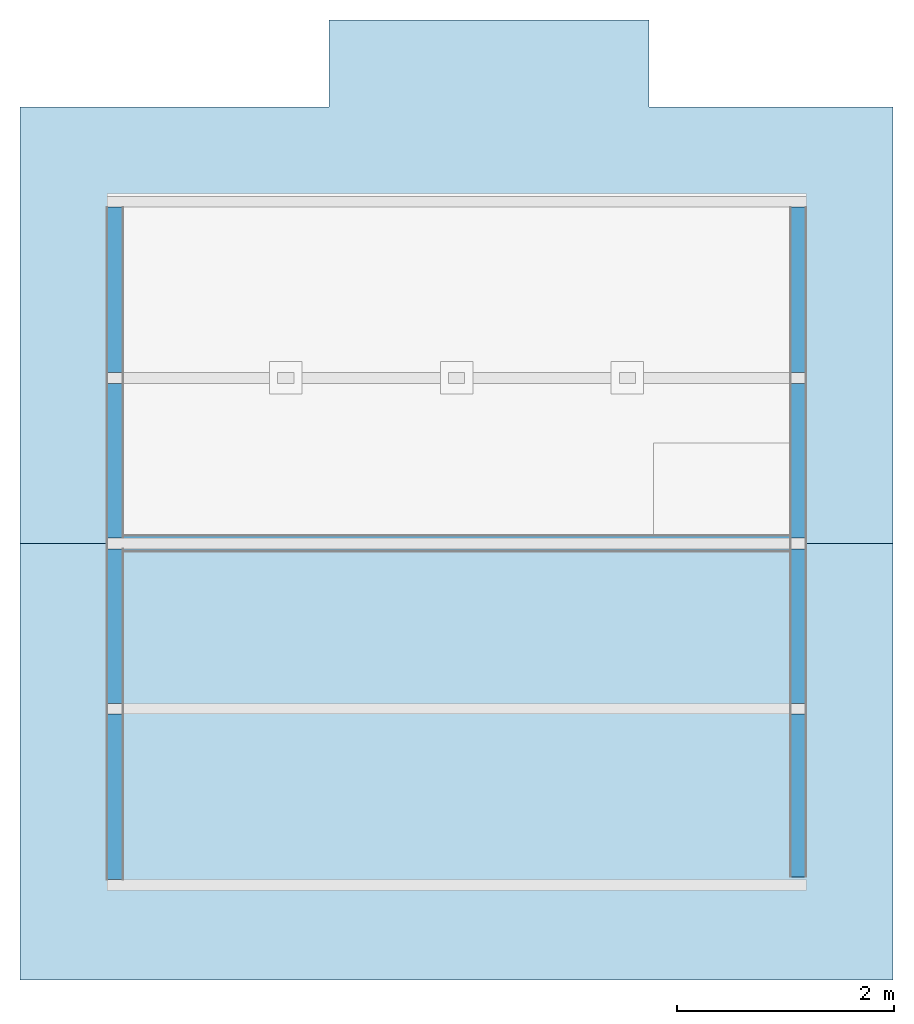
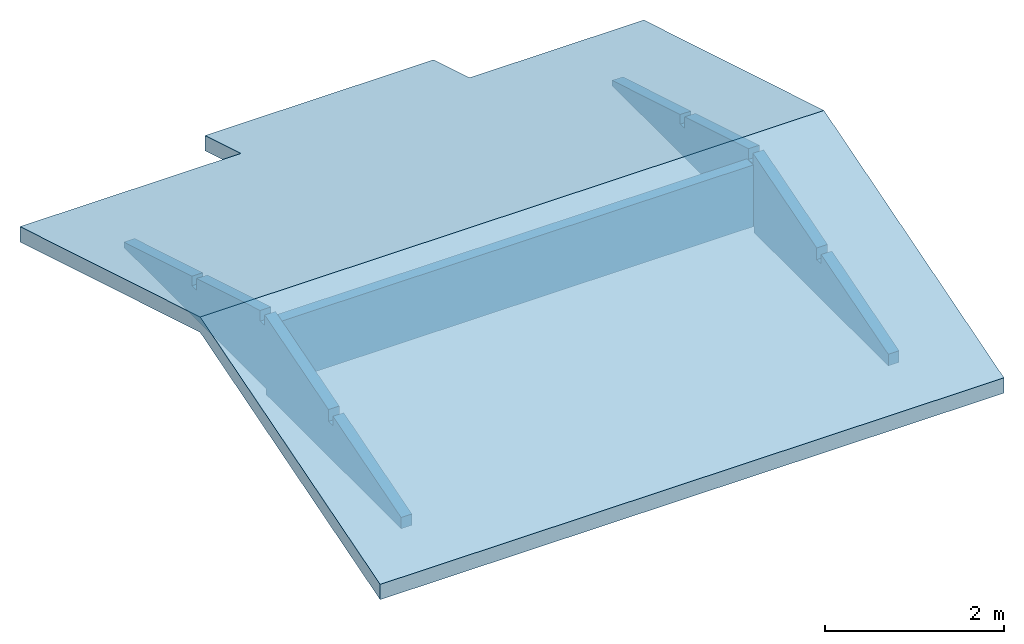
# One storey, part 2 of 4: 3 building element parts, 1 roof, 3 elements without a shape of their own.
"""IFC2X3 building model written with IfcOpenShell, lengths in millimetres."""

from ifc_helpers import new_model, entity, si_unit, converted_unit, derived_unit, money_unit, direction, frame, origin_with_axes, place, context, subcontext, project, spatial, polyline, outline, extrude, boolean, faceted_brep, material, type_object, element, aggregate, save


model = new_model("IFC2X3")

# Units and contexts
model_context = context("Model", 3, precision=0.01, world=origin_with_axes(), true_north=direction((0.0, 1.0)))
body_context = subcontext(model_context, "Body", "Model", "MODEL_VIEW")
ifc_project = project(units=[si_unit("LENGTHUNIT", "METRE", prefix="MILLI"), si_unit("AREAUNIT", "SQUARE_METRE"), si_unit("VOLUMEUNIT", "CUBIC_METRE"), converted_unit("PLANEANGLEUNIT", "DEGREE", entity("IfcPlaneAngleMeasure", 0.0174532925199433), si_unit("PLANEANGLEUNIT", "RADIAN"), dimensions=[0, 0, 0, 0, 0, 0, 0]), money_unit("USD"), converted_unit("TIMEUNIT", "Year", entity("IfcTimeMeasure", 31557600.0), si_unit("TIMEUNIT", "SECOND"), dimensions=[0, 0, 1, 0, 0, 0, 0]), si_unit("MASSUNIT", "GRAM", prefix="KILO"), si_unit("THERMODYNAMICTEMPERATUREUNIT", "DEGREE_CELSIUS"), si_unit("LUMINOUSINTENSITYUNIT", "LUMEN"), si_unit("ENERGYUNIT", "JOULE", prefix="MEGA"), derived_unit("THERMALCONDUCTANCEUNIT", [(si_unit("POWERUNIT", "WATT"), 1), (si_unit("LENGTHUNIT", "METRE"), -1), (si_unit("THERMODYNAMICTEMPERATUREUNIT", "KELVIN"), -1)]), derived_unit("SPECIFICHEATCAPACITYUNIT", [(si_unit("ENERGYUNIT", "JOULE"), 1), (si_unit("MASSUNIT", "GRAM", prefix="KILO"), -1), (si_unit("THERMODYNAMICTEMPERATUREUNIT", "KELVIN"), -1)]), derived_unit("MASSDENSITYUNIT", [(si_unit("MASSUNIT", "GRAM", prefix="KILO"), 1), (si_unit("VOLUMEUNIT", "CUBIC_METRE"), -1)])], contexts=[model_context])

# Site, building, storey
site_placement = place(None, origin_with_axes())
site = spatial("IfcSite", under=ifc_project, at=site_placement, Name="Local", CompositionType="ELEMENT")
building_placement = place(site_placement, origin_with_axes())
building = spatial("IfcBuilding", under=site, at=building_placement, Name="Construção", CompositionType="ELEMENT")
storey_placement = place(building_placement, frame((0.0, 0.0, 2500.0), z_axis=(0.0, 0.0, 1.0), x_axis=(1.0, 0.0, 0.0)))
storey = spatial("IfcBuildingStorey", under=building, at=storey_placement, Name="Cobertura", CompositionType="ELEMENT", Elevation=2500.0)

# Roof
ifc_material_1 = material(Name="Telha - Cobertura")
roof_placement = place(storey_placement, frame((3224.999999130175, 3625.000000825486, 115.4517409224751), z_axis=(0.0, 0.0, 1.0), x_axis=(1.0, 0.0, 0.0)))
element("IfcRoof", 1, at=roof_placement, inside=storey, material=ifc_material_1, Name="Cobert-01", ShapeType="NOTDEFINED", context=body_context, shape_type="Brep", body=[
    faceted_brep([(-4025.000000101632, 3625.000000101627, -31.19386984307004), (-4025.000001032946, -400.0000001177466, 1176.30613026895), (4024.999999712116, -400.0000001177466, 1176.30613026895), (4025.000000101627, 3625.000000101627, -31.19386984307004), (1775.000000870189, 3625.000000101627, -31.19386984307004), (1775.000000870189, 4425.000000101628, -271.1938698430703), (-1174.999999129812, 4425.000000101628, -271.1938698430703), (-1174.999999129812, 3625.000000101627, -31.19386984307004), (-4024.999999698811, 3625.000000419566, -240.0000003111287), (-4025.000001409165, -399.9999997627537, 967.5000000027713), (4025.000000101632, -4425.000000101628, -31.19386972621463), (-4025.000000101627, -4425.000000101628, -31.19386972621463), (4024.999999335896, -399.9999997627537, 967.5000000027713), (4025.000000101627, 3625.000000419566, -240.0000003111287), (1775.00000103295, 3625.000000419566, -240.0000003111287), (1775.00000103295, 4425.000000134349, -480.0000002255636), (-1174.999999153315, 4425.000000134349, -480.0000002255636), (-1174.999999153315, 3625.000000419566, -240.0000003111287), (-4025.000000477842, -4424.999999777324, -240.0000000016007), (4025.000000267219, -4424.999999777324, -240.0000000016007)], [[[0, 1, 2, 3, 4, 5, 6, 7]], [[8, 9, 1, 0]], [[10, 2, 1, 11]], [[3, 2, 12, 13]], [[13, 14, 4, 3]], [[14, 15, 5, 4]], [[15, 16, 6, 5]], [[16, 17, 7, 6]], [[17, 8, 0, 7]], [[13, 12, 9, 8, 17, 16, 15, 14]], [[11, 1, 9, 18]], [[19, 12, 2, 10]], [[18, 19, 10, 11]], [[18, 9, 12, 19]]]),
])

# Wall, building element part
wall_type = type_object("IfcWallType", Name="Alvenaria 140, Rebocada 2 Faces 150", PredefinedType="NOTDEFINED")
wall_1_placement = place(storey_placement, frame((6449.999999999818, 150.0000000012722, 0.0), z_axis=(0.0, 0.0, 1.0), x_axis=(0.0, 1.0, 0.0)))
wall_1 = element("IfcWall", 2, at=wall_1_placement, inside=storey, type_object=wall_type, Name="Parede-10")
ifc_material_2 = material(Name="Bloco de Concreto - Estrutural DEF")
building_element_part_1_placement = place(wall_1_placement, origin_with_axes())
building_element_part_1 = element("IfcBuildingElementPart", 3, at=building_element_part_1_placement, material=ifc_material_2, Name="Bloco de Concreto - Estrutural DEF", context=body_context, shape_type="CSG", body=[
    boolean("DIFFERENCE", boolean("DIFFERENCE", boolean("DIFFERENCE", boolean("DIFFERENCE", boolean("DIFFERENCE", boolean("DIFFERENCE", extrude(outline(polyline([(0.0, 4.999999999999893), (6175.000000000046, 4.999999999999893), (6175.000000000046, 145.0000000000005), (0.0, 145.0000000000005), (0.0, 4.999999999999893)])), origin_with_axes(), (0.0, 0.0, 1.0), 1176.306130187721), faceted_brep([(6175.000000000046, 4.999999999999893, 80.00000000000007), (6175.000000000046, 0.0, 80.00000000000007), (6175.000000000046, 0.0, 0.0), (6175.000000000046, 4.999999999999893, 0.0), (2999.999999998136, 0.0, 80.00000000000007), (2999.999999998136, 4.999999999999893, 80.00000000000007), (2999.999999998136, 0.0, 0.0), (2999.999999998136, 4.999999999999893, 0.0)], [[[0, 1, 2, 3]], [[4, 1, 0, 5]], [[4, 6, 2, 1]], [[6, 7, 3, 2]], [[5, 0, 3, 7]], [[6, 4, 5, 7]]])), faceted_brep([(4650.000000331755, 0.0, 480.4517407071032), (4650.000000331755, 0.0, 610.4517409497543), (6175.000000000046, 0.0, 152.9517410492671), (6175.000000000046, 0.0, 1176.306130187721), (0.0, 0.0, 1176.306130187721), (0.0, 0.0, 160.451740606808), (1500.000000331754, 0.0, 610.4517407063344), (1500.000000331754, 0.0, 480.4517406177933), (1600.000000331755, 0.0, 480.4517406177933), (1600.000000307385, 0.0, 640.4517406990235), (3025.000000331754, 0.0, 1067.951740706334), (3025.000000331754, 0.0, 922.9517406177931), (3125.000000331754, 0.0, 922.9517406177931), (3125.000000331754, 0.0, 1067.951740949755), (4550.000000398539, 0.0, 640.451740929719), (4550.000000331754, 0.0, 480.4517407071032), (4650.000000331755, 4.999999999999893, 480.4517407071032), (4650.000000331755, 4.999999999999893, 610.4517409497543), (6175.000000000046, 4.999999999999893, 152.9517410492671), (6175.000000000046, 4.999999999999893, 1176.306130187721), (0.0, 4.999999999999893, 1176.306130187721), (0.0, 4.999999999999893, 160.451740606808), (1500.000000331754, 4.999999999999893, 610.4517407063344), (1500.000000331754, 4.999999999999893, 480.4517406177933), (1600.000000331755, 4.999999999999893, 480.4517406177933), (1600.000000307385, 4.999999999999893, 640.4517406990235), (3025.000000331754, 4.999999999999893, 1067.951740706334), (3025.000000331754, 4.999999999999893, 922.9517406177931), (3125.000000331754, 4.999999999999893, 922.9517406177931), (3125.000000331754, 4.999999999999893, 1067.951740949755), (4550.000000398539, 4.999999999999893, 640.451740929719), (4550.000000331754, 4.999999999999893, 480.4517407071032)], [[[0, 1, 2, 3, 4, 5, 6, 7, 8, 9, 10, 11, 12, 13, 14, 15]], [[1, 0, 16, 17]], [[18, 2, 1, 17]], [[2, 18, 19, 3]], [[20, 4, 3, 19]], [[21, 5, 4, 20]], [[6, 5, 21, 22]], [[7, 6, 22, 23]], [[8, 7, 23, 24]], [[9, 8, 24, 25]], [[10, 9, 25, 26]], [[11, 10, 26, 27]], [[12, 11, 27, 28]], [[13, 12, 28, 29]], [[14, 13, 29, 30]], [[15, 14, 30, 31]], [[0, 15, 31, 16]], [[22, 21, 20, 19, 18, 17, 16, 31, 30, 29, 28, 27, 26, 25, 24, 23]]])), faceted_brep([(6175.000000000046, 144.9999999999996, 80.00000000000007), (6175.000000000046, 4.999999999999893, 80.00000000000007), (6175.000000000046, 4.999999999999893, 0.0), (6175.000000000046, 145.0000000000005, 0.0), (2999.999999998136, 145.0000000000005, 80.00000000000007), (2999.999999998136, 4.999999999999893, 80.00000000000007), (2999.999999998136, 4.999999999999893, 0.0), (2999.999999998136, 144.9999999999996, 0.0)], [[[0, 1, 2, 3]], [[1, 0, 4, 5]], [[5, 6, 2, 1]], [[6, 7, 3, 2]], [[4, 0, 3, 7]], [[7, 6, 5, 4]]])), faceted_brep([(4650.000000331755, 4.999999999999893, 480.4517407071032), (4650.000000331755, 4.999999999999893, 610.4517409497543), (6175.000000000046, 4.999999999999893, 152.9517410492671), (6175.000000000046, 4.999999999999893, 1176.306130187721), (0.0, 4.999999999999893, 1176.306130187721), (0.0, 4.999999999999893, 160.451740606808), (1500.000000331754, 4.999999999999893, 610.4517407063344), (1500.000000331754, 4.999999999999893, 480.4517406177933), (1600.000000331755, 4.999999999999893, 480.4517406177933), (1600.000000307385, 4.999999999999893, 640.4517406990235), (3025.000000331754, 4.999999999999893, 1067.951740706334), (3025.000000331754, 4.999999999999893, 922.9517406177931), (3125.000000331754, 4.999999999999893, 922.9517406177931), (3125.000000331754, 4.999999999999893, 1067.951740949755), (4550.000000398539, 4.999999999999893, 640.451740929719), (4550.000000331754, 4.999999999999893, 480.4517407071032), (4650.000000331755, 145.0000000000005, 480.4517407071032), (4650.000000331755, 145.0000000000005, 610.4517409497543), (6175.000000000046, 144.9999999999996, 152.9517410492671), (6175.000000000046, 145.0000000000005, 1176.306130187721), (0.0, 145.0000000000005, 1176.306130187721), (0.0, 144.9999999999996, 160.451740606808), (1500.000000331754, 145.0000000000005, 610.4517407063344), (1500.000000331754, 145.0000000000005, 480.4517406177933), (1600.000000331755, 145.0000000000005, 480.4517406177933), (1600.000000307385, 145.0000000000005, 640.4517406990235), (3025.000000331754, 145.0000000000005, 1067.951740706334), (3025.000000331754, 145.0000000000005, 922.9517406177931), (3125.000000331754, 145.0000000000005, 922.9517406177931), (3125.000000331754, 145.0000000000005, 1067.951740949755), (4550.000000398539, 145.0000000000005, 640.451740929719), (4550.000000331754, 145.0000000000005, 480.4517407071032)], [[[0, 1, 2, 3, 4, 5, 6, 7, 8, 9, 10, 11, 12, 13, 14, 15]], [[0, 16, 17, 1]], [[18, 2, 1, 17]], [[2, 18, 19, 3]], [[20, 4, 3, 19]], [[21, 5, 4, 20]], [[6, 5, 21, 22]], [[23, 7, 6, 22]], [[24, 8, 7, 23]], [[8, 24, 25, 9]], [[10, 9, 25, 26]], [[27, 11, 10, 26]], [[28, 12, 11, 27]], [[12, 28, 29, 13]], [[14, 13, 29, 30]], [[31, 15, 14, 30]], [[16, 0, 15, 31]], [[22, 21, 20, 19, 18, 17, 16, 31, 30, 29, 28, 27, 26, 25, 24, 23]]])), faceted_brep([(6175.000000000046, 150.0000000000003, 80.00000000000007), (6175.000000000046, 144.9999999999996, 80.00000000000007), (6175.000000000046, 145.0000000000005, 0.0), (6175.000000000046, 150.0000000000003, 0.0), (2999.999999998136, 150.0000000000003, 80.00000000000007), (2999.999999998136, 145.0000000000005, 80.00000000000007), (2999.999999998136, 144.9999999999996, 0.0), (2999.999999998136, 150.0000000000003, 0.0)], [[[0, 1, 2, 3]], [[1, 0, 4, 5]], [[5, 6, 2, 1]], [[6, 7, 3, 2]], [[4, 0, 3, 7]], [[7, 6, 5, 4]]])), faceted_brep([(4650.000000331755, 145.0000000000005, 480.4517407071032), (4650.000000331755, 145.0000000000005, 610.4517409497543), (6175.000000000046, 144.9999999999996, 152.9517410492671), (6175.000000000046, 145.0000000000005, 1176.306130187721), (0.0, 145.0000000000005, 1176.306130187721), (0.0, 144.9999999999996, 160.451740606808), (1500.000000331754, 145.0000000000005, 610.4517407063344), (1500.000000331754, 145.0000000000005, 480.4517406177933), (1600.000000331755, 145.0000000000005, 480.4517406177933), (1600.000000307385, 145.0000000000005, 640.4517406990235), (3025.000000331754, 145.0000000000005, 1067.951740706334), (3025.000000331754, 145.0000000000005, 922.9517406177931), (3125.000000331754, 145.0000000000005, 922.9517406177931), (3125.000000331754, 145.0000000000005, 1067.951740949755), (4550.000000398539, 145.0000000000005, 640.451740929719), (4550.000000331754, 145.0000000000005, 480.4517407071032), (4650.000000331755, 150.0000000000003, 480.4517407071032), (4650.000000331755, 150.0000000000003, 610.4517409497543), (6175.000000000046, 150.0000000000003, 152.9517410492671), (6175.000000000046, 150.0000000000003, 1176.306130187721), (0.0, 150.0000000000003, 1176.306130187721), (0.0, 150.0000000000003, 160.451740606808), (1500.000000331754, 150.0000000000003, 610.4517407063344), (1500.000000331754, 150.0000000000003, 480.4517406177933), (1600.000000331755, 150.0000000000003, 480.4517406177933), (1600.000000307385, 150.0000000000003, 640.4517406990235), (3025.000000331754, 150.0000000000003, 1067.951740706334), (3025.000000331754, 150.0000000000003, 922.9517406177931), (3125.000000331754, 150.0000000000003, 922.9517406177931), (3125.000000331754, 150.0000000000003, 1067.951740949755), (4550.000000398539, 150.0000000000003, 640.451740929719), (4550.000000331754, 150.0000000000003, 480.4517407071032)], [[[0, 1, 2, 3, 4, 5, 6, 7, 8, 9, 10, 11, 12, 13, 14, 15]], [[16, 17, 1, 0]], [[18, 2, 1, 17]], [[2, 18, 19, 3]], [[20, 4, 3, 19]], [[21, 5, 4, 20]], [[6, 5, 21, 22]], [[22, 23, 7, 6]], [[23, 24, 8, 7]], [[24, 25, 9, 8]], [[10, 9, 25, 26]], [[26, 27, 11, 10]], [[27, 28, 12, 11]], [[28, 29, 13, 12]], [[14, 13, 29, 30]], [[30, 31, 15, 14]], [[31, 16, 0, 15]], [[22, 21, 20, 19, 18, 17, 16, 31, 30, 29, 28, 27, 26, 25, 24, 23]]])),
])
aggregate(wall_1, [building_element_part_1])

wall_2_placement = place(storey_placement, frame((0.0, 6325.000000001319, 0.0), z_axis=(0.0, 0.0, 1.0), x_axis=(0.0, -1.0, 0.0)))
wall_2 = element("IfcWall", 4, at=wall_2_placement, inside=storey, type_object=wall_type, Name="Parede-09")
building_element_part_2_placement = place(wall_2_placement, origin_with_axes())
building_element_part_2 = element("IfcBuildingElementPart", 5, at=building_element_part_2_placement, material=ifc_material_2, Name="Bloco de Concreto - Estrutural DEF", context=body_context, shape_type="CSG", body=[
    boolean("DIFFERENCE", boolean("DIFFERENCE", boolean("DIFFERENCE", boolean("DIFFERENCE", boolean("DIFFERENCE", extrude(outline(polyline([(0.0, 4.999999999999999), (6200.000000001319, 4.999999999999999), (6200.000000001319, 145.0), (0.0, 145.0), (0.0, 4.999999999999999)])), origin_with_axes(), (0.0, 0.0, 1.0), 1176.306130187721), faceted_brep([(0.0, 0.0, 80.00000000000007), (0.0, 4.999999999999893, 80.00000000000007), (0.0, 5.000000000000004, 0.0), (0.0, 0.0, 0.0), (3175.000000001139, 0.0, 80.00000000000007), (3175.000000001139, 4.999999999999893, 80.00000000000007), (3175.000000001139, 4.999999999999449, 0.0), (3175.000000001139, 0.0, 0.0)], [[[0, 1, 2, 3]], [[1, 0, 4, 5]], [[5, 6, 2, 1]], [[6, 7, 3, 2]], [[4, 0, 3, 7]], [[7, 6, 5, 4]]])), faceted_brep([(1524.999999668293, 4.999999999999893, 480.4517407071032), (1524.999999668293, 4.999999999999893, 610.4517409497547), (0.0, 4.999999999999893, 152.9517410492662), (0.0, 5.000000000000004, 1176.306130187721), (6200.000000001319, 5.000000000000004, 1176.306130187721), (6200.000000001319, 4.999999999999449, 152.9517406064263), (4674.999999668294, 4.999999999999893, 610.4517407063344), (4674.999999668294, 4.999999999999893, 480.4517406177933), (4574.999999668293, 4.999999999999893, 480.4517406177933), (4574.999999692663, 4.999999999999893, 640.4517406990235), (3149.999999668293, 4.999999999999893, 1067.951740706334), (3149.999999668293, 4.999999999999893, 922.9517406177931), (3049.999999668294, 4.999999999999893, 922.9517406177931), (3049.999999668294, 4.999999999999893, 1067.951740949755), (1624.999999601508, 4.999999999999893, 640.451740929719), (1624.999999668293, 4.999999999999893, 480.4517407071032), (1524.999999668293, 0.0, 480.4517407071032), (1524.999999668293, 0.0, 610.4517409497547), (0.0, 0.0, 152.9517410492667), (0.0, 0.0, 1176.306130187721), (6200.000000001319, 0.0, 1176.306130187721), (6200.000000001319, 0.0, 152.9517406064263), (4674.999999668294, 0.0, 610.4517407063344), (4674.999999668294, 0.0, 480.4517406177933), (4574.999999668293, 0.0, 480.4517406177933), (4574.999999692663, 0.0, 640.4517406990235), (3149.999999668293, 0.0, 1067.951740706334), (3149.999999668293, 0.0, 922.9517406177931), (3049.999999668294, 0.0, 922.9517406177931), (3049.999999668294, 0.0, 1067.951740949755), (1624.999999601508, 0.0, 640.451740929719), (1624.999999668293, 0.0, 480.4517407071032)], [[[0, 1, 2, 3, 4, 5, 6, 7, 8, 9, 10, 11, 12, 13, 14, 15]], [[16, 17, 1, 0]], [[18, 2, 1, 17]], [[2, 18, 19, 3]], [[3, 19, 20, 4]], [[21, 5, 4, 20]], [[6, 5, 21, 22]], [[22, 23, 7, 6]], [[23, 24, 8, 7]], [[24, 25, 9, 8]], [[10, 9, 25, 26]], [[26, 27, 11, 10]], [[27, 28, 12, 11]], [[28, 29, 13, 12]], [[14, 13, 29, 30]], [[30, 31, 15, 14]], [[31, 16, 0, 15]], [[22, 21, 20, 19, 18, 17, 16, 31, 30, 29, 28, 27, 26, 25, 24, 23]]])), faceted_brep([(0.0, 4.999999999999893, 80.00000000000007), (0.0, 145.0, 80.00000000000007), (0.0, 145.0, 0.0), (0.0, 5.000000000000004, 0.0), (3175.000000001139, 4.999999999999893, 80.00000000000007), (3175.000000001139, 145.0, 80.00000000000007), (3175.000000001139, 144.9999999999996, 0.0), (3175.000000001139, 4.999999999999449, 0.0)], [[[0, 1, 2, 3]], [[1, 0, 4, 5]], [[5, 6, 2, 1]], [[6, 7, 3, 2]], [[4, 0, 3, 7]], [[7, 6, 5, 4]]])), faceted_brep([(1524.999999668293, 144.9999999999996, 480.4517407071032), (1524.999999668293, 144.9999999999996, 610.4517409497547), (0.0, 145.0, 152.9517410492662), (0.0, 145.0, 1176.306130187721), (6200.000000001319, 145.0, 1176.306130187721), (6200.000000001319, 144.9999999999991, 152.9517406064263), (4674.999999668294, 144.9999999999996, 610.4517407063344), (4674.999999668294, 144.9999999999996, 480.4517406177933), (4574.999999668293, 144.9999999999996, 480.4517406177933), (4574.999999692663, 144.9999999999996, 640.4517406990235), (3149.999999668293, 144.9999999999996, 1067.951740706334), (3149.999999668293, 144.9999999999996, 922.9517406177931), (3049.999999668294, 144.9999999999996, 922.9517406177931), (3049.999999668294, 144.9999999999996, 1067.951740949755), (1624.999999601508, 144.9999999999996, 640.451740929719), (1624.999999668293, 144.9999999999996, 480.4517407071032), (1524.999999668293, 4.999999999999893, 480.4517407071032), (1524.999999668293, 4.999999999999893, 610.4517409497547), (0.0, 4.999999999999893, 152.9517410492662), (0.0, 5.000000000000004, 1176.306130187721), (6200.000000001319, 5.000000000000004, 1176.306130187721), (6200.000000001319, 4.999999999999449, 152.9517406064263), (4674.999999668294, 4.999999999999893, 610.4517407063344), (4674.999999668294, 4.999999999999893, 480.4517406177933), (4574.999999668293, 4.999999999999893, 480.4517406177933), (4574.999999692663, 4.999999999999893, 640.4517406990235), (3149.999999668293, 4.999999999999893, 1067.951740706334), (3149.999999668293, 4.999999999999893, 922.9517406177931), (3049.999999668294, 4.999999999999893, 922.9517406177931), (3049.999999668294, 4.999999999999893, 1067.951740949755), (1624.999999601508, 4.999999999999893, 640.451740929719), (1624.999999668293, 4.999999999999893, 480.4517407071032)], [[[0, 1, 2, 3, 4, 5, 6, 7, 8, 9, 10, 11, 12, 13, 14, 15]], [[0, 16, 17, 1]], [[18, 2, 1, 17]], [[2, 18, 19, 3]], [[3, 19, 20, 4]], [[21, 5, 4, 20]], [[6, 5, 21, 22]], [[23, 7, 6, 22]], [[7, 23, 24, 8]], [[8, 24, 25, 9]], [[10, 9, 25, 26]], [[27, 11, 10, 26]], [[12, 11, 27, 28]], [[12, 28, 29, 13]], [[14, 13, 29, 30]], [[31, 15, 14, 30]], [[15, 31, 16, 0]], [[22, 21, 20, 19, 18, 17, 16, 31, 30, 29, 28, 27, 26, 25, 24, 23]]])), faceted_brep([(1524.999999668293, 149.9999999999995, 480.4517407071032), (1524.999999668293, 149.9999999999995, 610.4517409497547), (0.0, 149.9999999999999, 152.9517410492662), (0.0, 150.0, 1176.306130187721), (6200.000000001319, 150.0, 1176.306130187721), (6200.000000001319, 149.9999999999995, 152.9517406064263), (4674.999999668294, 149.9999999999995, 610.4517407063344), (4674.999999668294, 149.9999999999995, 480.4517406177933), (4574.999999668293, 149.9999999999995, 480.4517406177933), (4574.999999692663, 149.9999999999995, 640.4517406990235), (3149.999999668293, 149.9999999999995, 1067.951740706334), (3149.999999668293, 149.9999999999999, 922.9517406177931), (3170.000000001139, 149.9999999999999, 922.9517406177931), (3170.000000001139, 149.9999999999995, 80.00000000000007), (3175.000000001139, 149.9999999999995, 80.00000000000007), (3175.000000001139, 149.9999999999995, 0.0), (0.0, 150.0, 0.0), (0.0, 149.9999999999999, 80.00000000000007), (3030.000000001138, 150.0000000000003, 80.00000000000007), (3030.000000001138, 149.9999999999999, 922.9517406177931), (3049.999999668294, 149.9999999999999, 922.9517406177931), (3049.999999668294, 149.9999999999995, 1067.951740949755), (1624.999999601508, 149.9999999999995, 640.451740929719), (1624.999999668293, 149.9999999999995, 480.4517407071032), (1524.999999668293, 144.9999999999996, 480.4517407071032), (1524.999999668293, 144.9999999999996, 610.4517409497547), (0.0, 145.0, 152.9517410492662), (0.0, 145.0, 1176.306130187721), (6200.000000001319, 145.0, 1176.306130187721), (6200.000000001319, 144.9999999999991, 152.9517406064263), (4674.999999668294, 144.9999999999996, 610.4517407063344), (4674.999999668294, 144.9999999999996, 480.4517406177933), (4574.999999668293, 144.9999999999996, 480.4517406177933), (4574.999999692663, 144.9999999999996, 640.4517406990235), (3149.999999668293, 144.9999999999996, 1067.951740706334), (3149.999999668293, 144.9999999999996, 922.9517406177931), (3170.000000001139, 144.9999999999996, 922.9517406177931), (3170.000000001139, 145.0, 80.00000000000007), (3175.000000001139, 145.0, 80.00000000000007), (3175.000000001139, 144.9999999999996, 0.0), (0.0, 145.0, 0.0), (0.0, 145.0, 80.00000000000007), (3030.000000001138, 145.0, 80.00000000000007), (3030.000000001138, 144.9999999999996, 922.9517406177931), (3049.999999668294, 144.9999999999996, 922.9517406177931), (3049.999999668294, 144.9999999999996, 1067.951740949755), (1624.999999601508, 144.9999999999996, 640.451740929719), (1624.999999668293, 144.9999999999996, 480.4517407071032)], [[[0, 1, 2, 3, 4, 5, 6, 7, 8, 9, 10, 11, 12, 13, 14, 15, 16, 17, 18, 19, 20, 21, 22, 23]], [[1, 0, 24, 25]], [[26, 2, 1, 25]], [[2, 26, 27, 3]], [[3, 27, 28, 4]], [[29, 5, 4, 28]], [[6, 5, 29, 30]], [[7, 6, 30, 31]], [[8, 7, 31, 32]], [[9, 8, 32, 33]], [[10, 9, 33, 34]], [[11, 10, 34, 35]], [[12, 11, 35, 36]], [[13, 12, 36, 37]], [[14, 13, 37, 38]], [[15, 14, 38, 39]], [[15, 39, 40, 16]], [[41, 17, 16, 40]], [[18, 17, 41, 42]], [[19, 18, 42, 43]], [[20, 19, 43, 44]], [[21, 20, 44, 45]], [[22, 21, 45, 46]], [[23, 22, 46, 47]], [[0, 23, 47, 24]], [[42, 41, 40, 39, 38, 37, 36, 35, 34, 33, 32, 31, 30, 29, 28, 27, 26, 25, 24, 47, 46, 45, 44, 43]]])),
])
aggregate(wall_2, [building_element_part_2])

wall_3_placement = place(storey_placement, frame((6299.999999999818, 3300.00000000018, 0.0), z_axis=(0.0, 0.0, 1.0), x_axis=(-1.0, 0.0, 0.0)))
wall_3 = element("IfcWall", 6, at=wall_3_placement, inside=storey, type_object=wall_type, Name="Parede-11")
building_element_part_3_placement = place(wall_3_placement, origin_with_axes())
building_element_part_3 = element("IfcBuildingElementPart", 7, at=building_element_part_3_placement, material=ifc_material_2, Name="Bloco de Concreto - Estrutural DEF", context=body_context, shape_type="CSG", body=[
    boolean("DIFFERENCE", boolean("DIFFERENCE", boolean("DIFFERENCE", extrude(outline(polyline([(0.0, 4.999999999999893), (6299.999999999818, 4.999999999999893), (6299.999999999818, 145.0), (0.0, 145.0), (0.0, 4.999999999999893)])), origin_with_axes(), (0.0, 0.0, 1.0), 922.9517406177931), faceted_brep([(6149.999999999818, 0.0, 922.9517406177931), (6149.999999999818, 0.0, 80.00000000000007), (0.0, 0.0, 80.00000000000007), (0.0, 0.0, 0.0), (6299.999999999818, 0.0, 0.0), (6299.999999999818, 0.0, 922.9517406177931), (6149.999999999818, 4.999999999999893, 922.9517406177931), (6149.999999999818, 4.999999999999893, 80.00000000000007), (0.0, 4.999999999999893, 80.00000000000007), (0.0, 4.999999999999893, 0.0), (6299.999999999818, 4.999999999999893, 0.0), (6299.999999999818, 4.999999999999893, 922.9517406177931)], [[[0, 1, 2, 3, 4, 5]], [[1, 0, 6, 7]], [[8, 2, 1, 7]], [[2, 8, 9, 3]], [[4, 3, 9, 10]], [[5, 4, 10, 11]], [[6, 0, 5, 11]], [[7, 6, 11, 10, 9, 8]]])), faceted_brep([(6154.999999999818, 4.999999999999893, 80.00000000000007), (0.0, 4.999999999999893, 80.00000000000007), (0.0, 4.999999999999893, 0.0), (6299.999999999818, 4.999999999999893, 0.0), (6299.999999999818, 4.999999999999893, 922.9517406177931), (6154.999999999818, 4.999999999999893, 922.9517406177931), (0.0, 145.0, 80.00000000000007), (6154.999999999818, 145.0, 80.00000000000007), (0.0, 145.0, 0.0), (6299.999999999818, 145.0, 0.0), (6299.999999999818, 145.0, 922.9517406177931), (6154.999999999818, 145.0, 922.9517406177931)], [[[0, 1, 2, 3, 4, 5]], [[6, 1, 0, 7]], [[1, 6, 8, 2]], [[3, 2, 8, 9]], [[4, 3, 9, 10]], [[11, 5, 4, 10]], [[0, 5, 11, 7]], [[7, 11, 10, 9, 8, 6]]])), faceted_brep([(6149.999999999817, 145.0, 922.9517406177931), (6149.999999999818, 145.0, 80.00000000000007), (0.0, 145.0, 80.00000000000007), (0.0, 145.0, 0.0), (6299.999999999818, 145.0, 0.0), (6299.999999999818, 145.0, 922.9517406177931), (6149.999999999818, 149.9999999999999, 922.9517406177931), (6149.999999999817, 150.0000000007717, 80.00000000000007), (0.0, 150.0000000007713, 80.00000000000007), (0.0, 149.9999999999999, 0.0), (6299.999999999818, 149.9999999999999, 0.0), (6299.999999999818, 149.9999999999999, 922.9517406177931)], [[[0, 1, 2, 3, 4, 5]], [[1, 0, 6, 7]], [[8, 2, 1, 7]], [[2, 8, 9, 3]], [[4, 3, 9, 10]], [[5, 4, 10, 11]], [[6, 0, 5, 11]], [[7, 6, 11, 10, 9, 8]]])),
])
aggregate(wall_3, [building_element_part_3])

save(model, "model.ifc")
